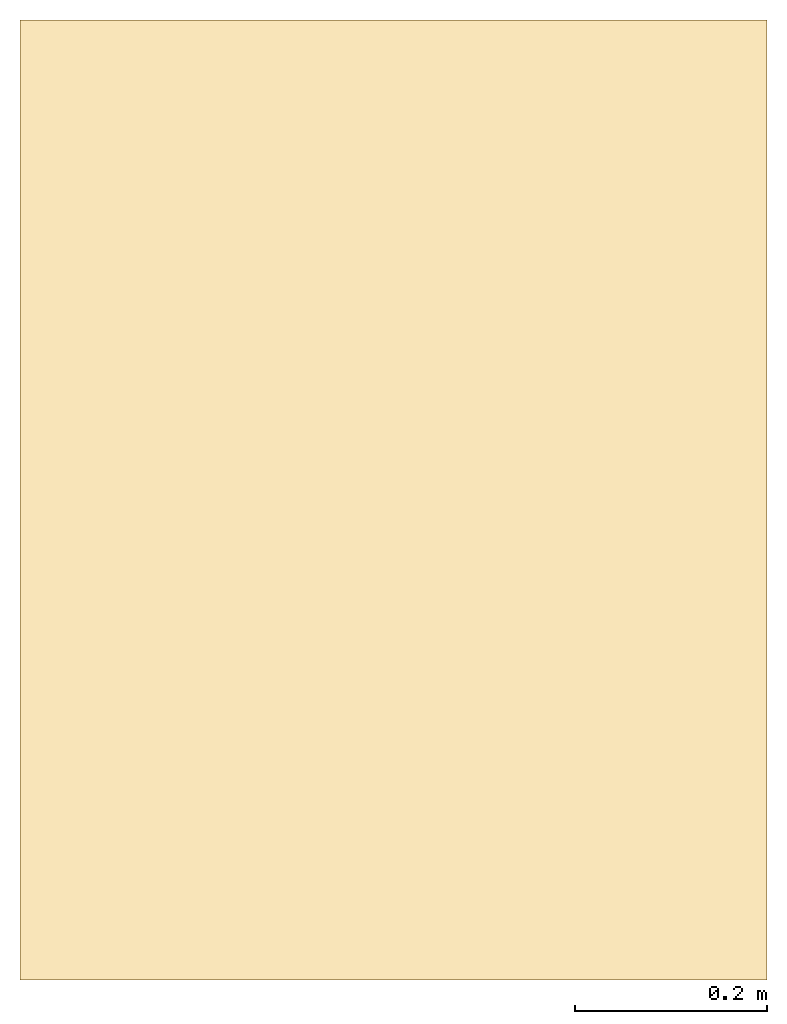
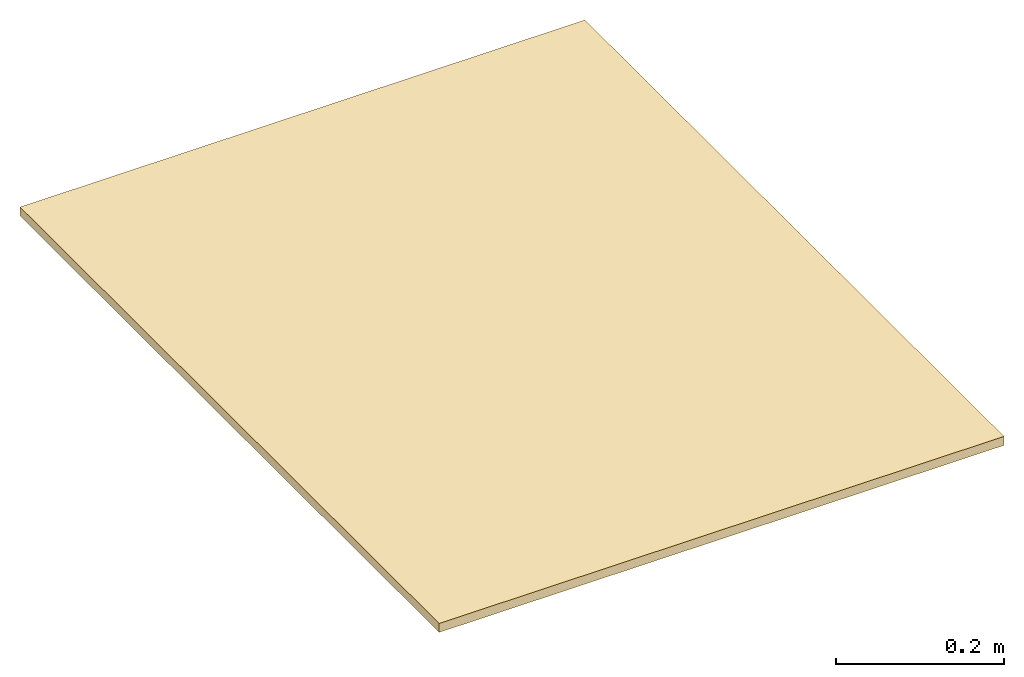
# One storey: 1 covering.
"""IFC4 building model written with IfcOpenShell, lengths in centimetres."""

from ifc_helpers import new_model, entity, si_unit, converted_unit, direction, frame, origin, place, context, subcontext, project, spatial, indexed_curve, outline, extrude, material, type_object, element, save


model = new_model("IFC4")

# Units and contexts
model_context = context("Model", 3, precision=0.001, world=origin(), true_north=direction((0.0, 1.0)))
body_context = subcontext(model_context, "Body", "Model", "MODEL_VIEW")
ifc_project = project(units=[si_unit("LENGTHUNIT", "METRE", prefix="CENTI"), si_unit("AREAUNIT", "SQUARE_METRE"), si_unit("VOLUMEUNIT", "CUBIC_METRE"), converted_unit("PLANEANGLEUNIT", "DEGREE", entity("IfcPlaneAngleMeasure", 0.017453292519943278), si_unit("PLANEANGLEUNIT", "RADIAN"), dimensions=[0, 0, 0, 0, 0, 0, 0])], contexts=[model_context])

# Site, building, storey
site_placement = place(None, origin())
site = spatial("IfcSite", under=ifc_project, at=site_placement, Name="Default", CompositionType="ELEMENT")
building_placement = place(site_placement, origin())
building = spatial("IfcBuilding", under=site, at=building_placement, CompositionType="ELEMENT")
storey_placement = place(building_placement, frame((0.0, 0.0, -612.0)))
storey = spatial("IfcBuildingStorey", under=building, at=storey_placement, Name="B2__ABOVE Slab", CompositionType="ELEMENT", Elevation=-612.0000000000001)

# Covering
ifc_material = material(Name="_WLL & CLG FINISHES__Lime - CEM Plaster", Category="Unassigned")
covering_type = type_object("IfcCoveringType", Name="Ceilings : Compound Ceiling : clg__INT COVERING__, GB 1.5cm__12.5(A) 3", PredefinedType="CEILING")
covering_placement = place(storey_placement, frame((1397.8494566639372, -40.628126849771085, 586.1999999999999)))
element("IfcCovering", 1, at=covering_placement, inside=storey, type_object=covering_type, material=ifc_material, Name="Ceilings : Compound Ceiling : clg__INT COVERING__, GB 1.5cm__12.5(A) 3", PredefinedType="CEILING", context=body_context, shape_type="SweptSolid", body=[
    extrude(outline(indexed_curve([(-38.90000000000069, -50.0), (38.90000000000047, -50.0), (38.90000000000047, 50.0), (-38.90000000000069, 50.0), (-38.90000000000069, -50.0)], self_intersect=False)), frame((38.9000000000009, 50.0, 0.0)), (0.0, 0.0, 1.0), 1.299999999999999),
])

save(model, "model.ifc")
